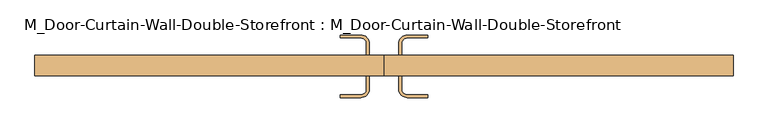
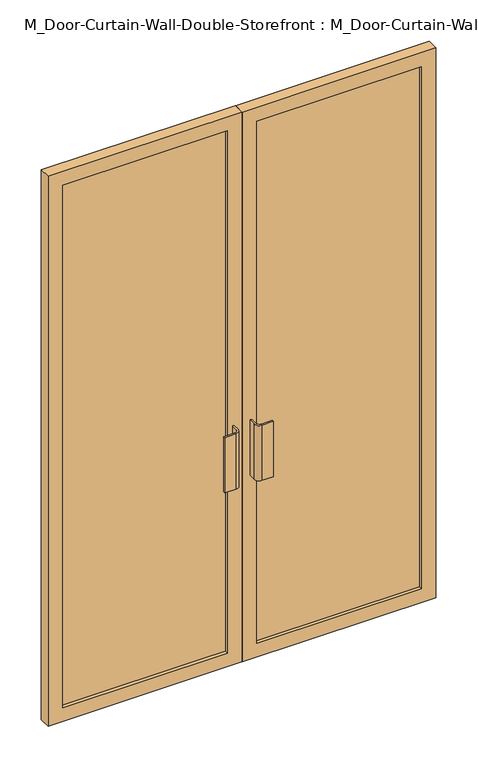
"""IFC4 building model written with IfcOpenShell, lengths in millimetres: door geometry, M_Door-Curtain-Wall-Double-Storefront : M_Door-Curtain-Wall-Double-Storefront."""

from ifc_helpers import new_model, si_unit, point, frame, frame_2d, origin, place, context, project, spatial, polyline, circle_curve, trimmed, segment, composite_curve, outline, extrude, source, transform, mapped, element, save


def m_door_curtain_wall_double_storefront_m_door_curtain_wall_a63655ac(model_context):
    return source(origin(), model_context, "Body", "SweptSolid", [
        extrude(outline(polyline([(2275.0, 0.8168501), (0.0, 0.8168501), (0.0, 759.1666666), (2275.0, 759.1666666), (2275.0, 0.8168501)]), holes=[polyline([(2217.85, 57.9668501), (2217.85, 702.0166666), (57.15, 702.0166666), (57.15, 57.9668501), (2217.85, 57.9668501)])]), frame((0.0, 15.55, 0.0), z_axis=(0.0, 1.0, 0.0), x_axis=(0.0, 0.0, 1.0)), (0.0, 0.0, 1.0), 44.45),
        extrude(outline(polyline([(2275.0, -0.7706499), (2275.0, -759.1666666), (0.0, -759.1666666), (0.0, -0.7706499), (2275.0, -0.7706499)]), holes=[polyline([(2217.85, -702.0166666), (2217.85, -57.9206499), (57.15, -57.9206499), (57.15, -702.0166666), (2217.85, -702.0166666)])]), frame((0.0, 15.55, 0.0), z_axis=(0.0, 1.0, 0.0), x_axis=(0.0, 0.0, 1.0)), (0.0, 0.0, 1.0), 44.45),
        extrude(outline(polyline([(702.0166666, 28.25), (57.9668501, 28.25), (57.9668501, 47.3), (702.0166666, 47.3), (702.0166666, 28.25)])), frame((0.0, 0.0, 57.15), z_axis=(0.0, 0.0, 1.0), x_axis=(1.0, 0.0, 0.0)), (0.0, 0.0, 1.0), 2160.7),
        extrude(outline(polyline([(-57.9206499, 28.25), (-702.0166666, 28.25), (-702.0166666, 47.3), (-57.9206499, 47.3), (-57.9206499, 28.25)])), frame((0.0, 0.0, 57.15), z_axis=(0.0, 0.0, 1.0), x_axis=(1.0, 0.0, 0.0)), (0.0, 0.0, 1.0), 2160.7),
        extrude(outline(composite_curve([segment(trimmed(circle_curve(frame_2d((-50.7768999, -12.7)), 19.05), [point((-31.7268999, -12.7))], [point((-50.7768999, -31.75))], False, "CARTESIAN"), True, "CONTINUOUS"), segment(polyline([(-50.7768999, -31.75), (-95.2268999, -31.75), (-95.2268999, -25.4), (-50.7768999, -25.4)]), True, "CONTINUOUS"), segment(trimmed(circle_curve(frame_2d((-50.7768999, -12.7)), 12.7), [point((-50.7768999, -25.4))], [point((-38.0768999, -12.7))], True, "CARTESIAN"), True, "CONTINUOUS"), segment(polyline([(-38.0768999, -12.7), (-38.0768999, 15.55), (-31.7268999, 15.55), (-31.7268999, -12.7)]), True, "CONTINUOUS")], self_intersect=False)), frame((0.0, 0.0, 762.0), z_axis=(0.0, 0.0, 1.0), x_axis=(1.0, 0.0, 0.0)), (0.0, 0.0, 1.0), 228.6),
        extrude(outline(composite_curve([segment(polyline([(31.7731001, -12.7), (31.7731001, 15.55), (38.1231001, 15.55), (38.1231001, -12.7)]), True, "CONTINUOUS"), segment(trimmed(circle_curve(frame_2d((50.8231001, -12.7)), 12.7), [point((38.1231001, -12.7))], [point((50.8231001, -25.4))], True, "CARTESIAN"), True, "CONTINUOUS"), segment(polyline([(50.8231001, -25.4), (95.2731001, -25.4), (95.2731001, -31.75), (50.8231001, -31.75)]), True, "CONTINUOUS"), segment(trimmed(circle_curve(frame_2d((50.8231001, -12.7)), 19.05), [point((50.8231001, -31.75))], [point((31.7731001, -12.7))], False, "CARTESIAN"), True, "CONTINUOUS")], self_intersect=False)), frame((0.0, 0.0, 762.0), z_axis=(0.0, 0.0, 1.0), x_axis=(1.0, 0.0, 0.0)), (0.0, 0.0, 1.0), 228.6),
        extrude(outline(composite_curve([segment(polyline([(-31.7268999, 85.4), (-31.7268999, 60.0), (-38.0768999, 60.0), (-38.0768999, 85.4)]), True, "CONTINUOUS"), segment(trimmed(circle_curve(frame_2d((-50.7768999, 85.4)), 12.7), [point((-38.0768999, 85.4))], [point((-50.7768999, 98.1))], True, "CARTESIAN"), True, "CONTINUOUS"), segment(polyline([(-50.7768999, 98.1), (-95.2268999, 98.1), (-95.2268999, 104.45), (-50.7768999, 104.45)]), True, "CONTINUOUS"), segment(trimmed(circle_curve(frame_2d((-50.7768999, 85.4)), 19.05), [point((-50.7768999, 104.45))], [point((-31.7268999, 85.4))], False, "CARTESIAN"), True, "CONTINUOUS")], self_intersect=False)), frame((0.0, 0.0, 762.0), z_axis=(0.0, 0.0, 1.0), x_axis=(1.0, 0.0, 0.0)), (0.0, 0.0, 1.0), 228.6),
        extrude(outline(composite_curve([segment(trimmed(circle_curve(frame_2d((50.8231001, 85.4)), 19.05), [point((31.7731001, 85.4))], [point((50.8231001, 104.45))], False, "CARTESIAN"), True, "CONTINUOUS"), segment(polyline([(50.8231001, 104.45), (95.2731001, 104.45), (95.2731001, 98.1), (50.8231001, 98.1)]), True, "CONTINUOUS"), segment(trimmed(circle_curve(frame_2d((50.8231001, 85.4)), 12.7), [point((50.8231001, 98.1))], [point((38.1231001, 85.4))], True, "CARTESIAN"), True, "CONTINUOUS"), segment(polyline([(38.1231001, 85.4), (38.1231001, 60.0), (31.7731001, 60.0), (31.7731001, 85.4)]), True, "CONTINUOUS")], self_intersect=False)), frame((0.0, 0.0, 762.0), z_axis=(0.0, 0.0, 1.0), x_axis=(1.0, 0.0, 0.0)), (0.0, 0.0, 1.0), 228.6),
    ])


if __name__ == "__main__":
    model = new_model("IFC4")
    model_context = context("Model", 3, world=origin())
    ifc_project = project(units=[si_unit("LENGTHUNIT", "METRE", prefix="MILLI")], contexts=[model_context])
    site = spatial("IfcSite", under=ifc_project)
    building = spatial("IfcBuilding", under=site)
    placement = place(None, origin())
    m_door_curtain_wall_double_storefront_m_door_curtain_wall_shape = m_door_curtain_wall_double_storefront_m_door_curtain_wall_a63655ac(model_context)
    element("IfcDoor", 1, ObjectType="M_Door-Curtain-Wall-Double-Storefront : M_Door-Curtain-Wall-Double-Storefront", at=placement, inside=building, context=model_context, shape_type="MappedRepresentation", body=[
        mapped(m_door_curtain_wall_double_storefront_m_door_curtain_wall_shape, transform((0.0, 0.0, 0.0), x_axis=(1.0, 0.0, 0.0), y_axis=(0.0, 1.0, 0.0), z_axis=(0.0, 0.0, 1.0))),
    ])
    save(model, "model.ifc")
